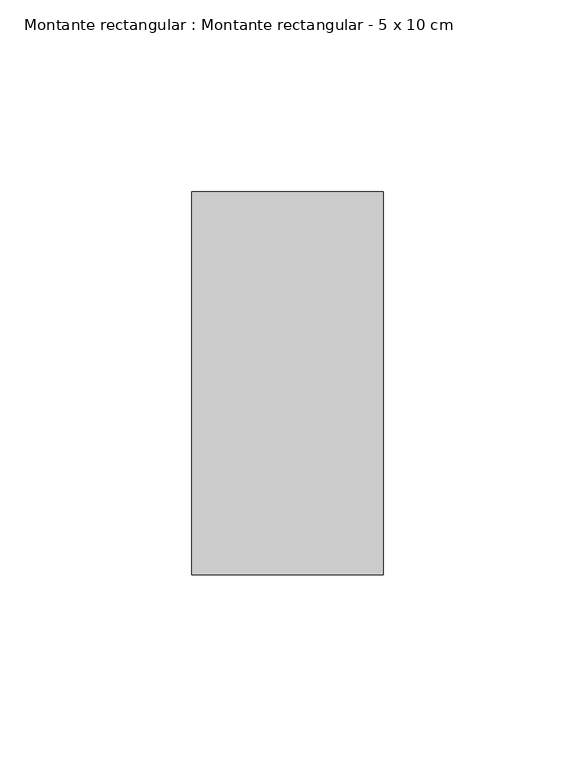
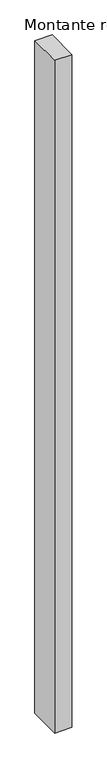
"""IFC4 building model written with IfcOpenShell, lengths in millimetres: member geometry, Montante rectangular : Montante rectangular - 5 x 10 cm."""

from ifc_helpers import new_model, si_unit, frame, origin, place, context, project, spatial, polyline, outline, extrude, source, transform, mapped, element, save


def montante_rectangular_montante_rectangular_5_x_10_cm_a00fdc0b(model_context):
    return source(origin(), model_context, "Body", "SweptSolid", [
        extrude(outline(polyline([(-50.0, 50.0), (0.0, 50.0), (0.0, -50.0), (-50.0, -50.0), (-50.0, 50.0)])), frame((0.0, 0.0, -2066.1603928), z_axis=(0.0, 0.0, 1.0), x_axis=(1.0, 0.0, 0.0)), (0.0, 0.0, 1.0), 2066.1603928),
    ])


if __name__ == "__main__":
    model = new_model("IFC4")
    model_context = context("Model", 3, world=origin())
    ifc_project = project(units=[si_unit("LENGTHUNIT", "METRE", prefix="MILLI")], contexts=[model_context])
    site = spatial("IfcSite", under=ifc_project)
    building = spatial("IfcBuilding", under=site)
    placement = place(None, origin())
    montante_rectangular_montante_rectangular_5_x_10_cm_shape = montante_rectangular_montante_rectangular_5_x_10_cm_a00fdc0b(model_context)
    element("IfcMember", 1, ObjectType="Montante rectangular : Montante rectangular - 5 x 10 cm", at=placement, inside=building, context=model_context, shape_type="MappedRepresentation", body=[
        mapped(montante_rectangular_montante_rectangular_5_x_10_cm_shape, transform((0.0, 0.0, 0.0), x_axis=(1.0, 0.0, 0.0), y_axis=(0.0, 1.0, 0.0), z_axis=(0.0, 0.0, 1.0))),
    ])
    save(model, "model.ifc")
